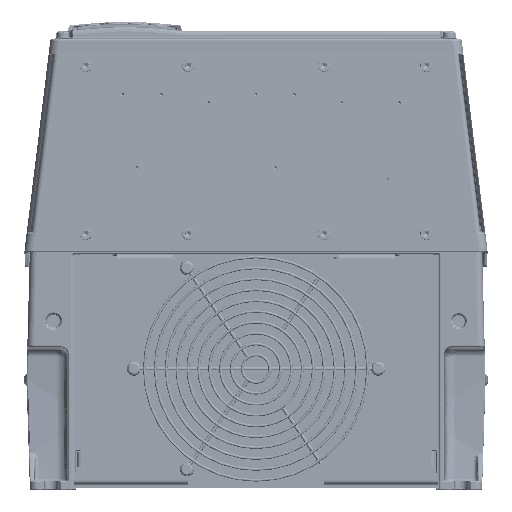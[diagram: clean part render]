
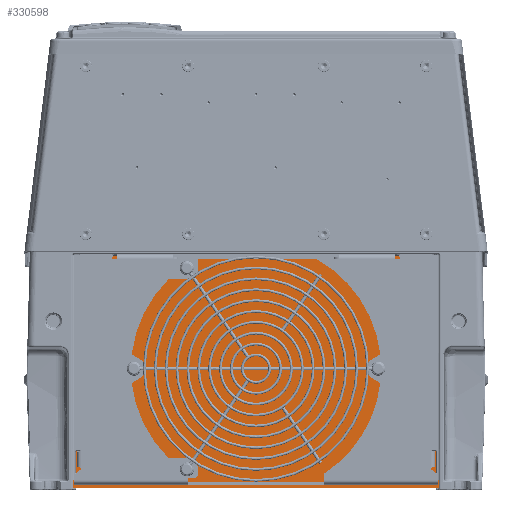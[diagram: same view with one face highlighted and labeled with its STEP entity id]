
A CAD part, front view. The second image highlights one B-rep face of the part: STEP entity #330598.
In plain terms, the highlighted planar face has unit normal (0, -1, 0).
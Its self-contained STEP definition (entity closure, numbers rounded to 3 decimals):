
#110197=DIRECTION('',(0.026,0.,-1.));
#110198=VECTOR('',#110197,153.118);
#110199=CARTESIAN_POINT('',(142.966,-280.301,
-5.935));
#110200=LINE('',#110199,#110198);
#110204=DIRECTION('',(0.026,0.,1.));
#110205=VECTOR('',#110204,153.118);
#110206=CARTESIAN_POINT('',(-146.974,-280.301,-159.));
#110207=LINE('',#110206,#110205);
#110211=CARTESIAN_POINT('',(-140.467,-280.301,-6.));
#110212=DIRECTION('',(0.,1.,0.));
#110213=DIRECTION('',(-1.,0.,0.026));
#110214=AXIS2_PLACEMENT_3D('',#110211,#110212,#110213);
#110219=DIRECTION('',(1.,0.,0.));
#110220=VECTOR('',#110219,285.516);
#110221=CARTESIAN_POINT('',(-142.758,-280.301,
-5.));
#110222=LINE('',#110221,#110220);
#110226=CARTESIAN_POINT('',(140.467,-280.301,-6.));
#110227=DIRECTION('',(0.,1.,0.));
#110228=DIRECTION('',(0.917,0.,0.4));
#110229=AXIS2_PLACEMENT_3D('',#110226,#110227,#110228);
#110306=CARTESIAN_POINT('',(142.758,-280.301,
-5.));
#113826=DIRECTION('',(1.,0.,0.));
#113827=VECTOR('',#113826,293.948);
#113828=CARTESIAN_POINT('',(-146.974,-280.301,-159.));
#113829=LINE('',#113828,#113827);
#198559=CARTESIAN_POINT('',(-146.974,-280.301,-159.));
#198560=CARTESIAN_POINT('',(-142.966,-280.301,
-5.935));
#198561=VERTEX_POINT('',#198559);
#198562=VERTEX_POINT('',#198560);
#198608=CARTESIAN_POINT('',(146.974,-280.301,-159.));
#198609=VERTEX_POINT('',#198608);
#199008=CARTESIAN_POINT('',(142.966,-280.301,
-5.935));
#199009=VERTEX_POINT('',#199008);
#199915=VERTEX_POINT('',#110306);
#199916=CARTESIAN_POINT('',(-142.758,-280.301,
-5.));
#199917=VERTEX_POINT('',#199916);
#330580=CARTESIAN_POINT('',(146.974,-280.301,-5.));
#330581=DIRECTION('',(0.,-1.,0.));
#330582=DIRECTION('',(-1.,0.,0.));
#330583=AXIS2_PLACEMENT_3D('',#330580,#330581,#330582);
#330584=PLANE('',#330583);
#330586=ORIENTED_EDGE('',*,*,#330585,.T.);
#330588=ORIENTED_EDGE('',*,*,#330587,.F.);
#330589=ORIENTED_EDGE('',*,*,#330554,.T.);
#330591=ORIENTED_EDGE('',*,*,#330590,.T.);
#330593=ORIENTED_EDGE('',*,*,#330592,.T.);
#330595=ORIENTED_EDGE('',*,*,#330594,.T.);
#330596=EDGE_LOOP('',(#330586,#330588,#330589,#330591,#330593,#330595));
#330597=FACE_OUTER_BOUND('',#330596,.F.);
#330598=ADVANCED_FACE('',(#330597),#330584,.T.);
#110215=CIRCLE('',#110214,2.5);
#110230=CIRCLE('',#110229,2.5);
#330554=EDGE_CURVE('',#198561,#198562,#110207,.T.);
#330585=EDGE_CURVE('',#199009,#198609,#110200,.T.);
#330587=EDGE_CURVE('',#198561,#198609,#113829,.T.);
#330590=EDGE_CURVE('',#198562,#199917,#110215,.T.);
#330592=EDGE_CURVE('',#199917,#199915,#110222,.T.);
#330594=EDGE_CURVE('',#199915,#199009,#110230,.T.);
